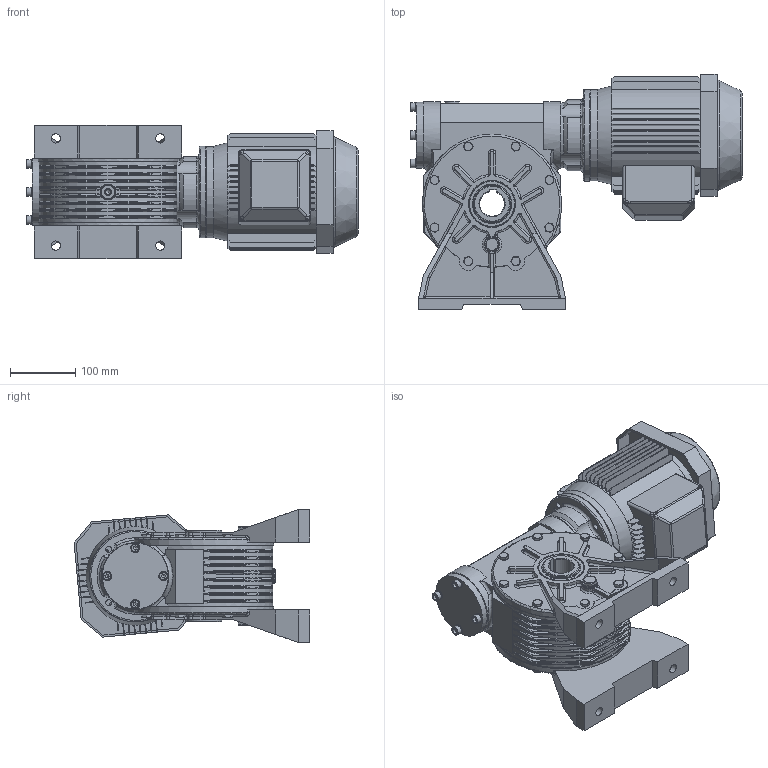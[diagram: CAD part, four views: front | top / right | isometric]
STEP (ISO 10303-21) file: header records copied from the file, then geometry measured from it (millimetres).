
FILE_DESCRIPTION((''),'2;1');
FILE_NAME('Y:\Archivi Inventor\Prog_01\GRAND_50\complessivi\Figurini\MRV50 sito\90s\mrv50_P2_90S_B14.stp','2013-02-08T10:27:07',('tech3'),(''),'Autodesk Inventor 2013','Autodesk Inventor 2013','');
FILE_SCHEMA(('AUTOMOTIVE_DESIGN { 1 0 10303 214 1 1 1 1 }'));
Length unit declared in the file: millimetre
Products named in the file (18): mrv50_90s_90l_b14; mrv50_fig; Figurino_carcassa_MRV50; 0105028; 0105029; figurino_corona_MRV50; figurino_0105010; Guarnizione 3_8 GAS; Tappo 3_8 GAS_esagn_incsst; Tappo3_8 GAS; figurino_0105009; ISO 4017 M8 x 20; 55_70_8; UNI 6592 8.4 x 14; UNI 5931  M 8 x  25; 0105006; DIN EN ISO 4762 M8 x 25; motori B14 90S
Assembly tree (50 placements, depth 3):
  mrv50_90s_90l_b14
    mrv50_fig
      Figurino_carcassa_MRV50
      0105028  x2
      0105029  x2
      figurino_corona_MRV50
      figurino_0105010  x2
      Guarnizione 3_8 GAS  x4
      Tappo 3_8 GAS_esagn_incsst  x2
      Tappo3_8 GAS  x2
      figurino_0105009
      ISO 4017 M8 x 20  x16
      55_70_8  x2
      UNI 6592 8.4 x 14  x4
      UNI 5931  M 8 x  25  x4
    0105006
    DIN EN ISO 4762 M8 x 25  x4
    motori B14 90S
Bounding box: 507.8 x 360.51 x 203.7 mm (x, y, z)
Volume: 10948645.1 mm3; surface area: 1159889.2 mm2
Topology: 61 solids, 63 shells, 2068 faces, 4947 edges, 2952 vertices
Faces by surface type: plane 862, cylinder 616, cone 229, bspline 162, torus 161, sphere 38
Full cylindrical faces by diameter (mm): 2 x2, 6.647 x28, 8 x26, 8.4 x4, 8.5 x48, 9 x4, 11.63 x16, 13 x12, 13.046 x2, 14 x12, 14.95 x4, 16.3 x4, 16.5 x2, 22 x8, 24 x3, 55 x1, 60 x1, 66.4 x2, 69 x2, 70 x6, 72 x4, 73 x2, 75 x1, 95 x1, 99.5 x2, 101 x1, 102 x2, 114.4 x1, 140 x2, 176 x4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
Entity records: 48949 total; most frequent: CARTESIAN_POINT 16882, DIRECTION 6566, ORIENTED_EDGE 6142, EDGE_CURVE 3071, AXIS2_PLACEMENT_3D 2549, VERTEX_POINT 1993, EDGE_LOOP 1736, VECTOR 1468
